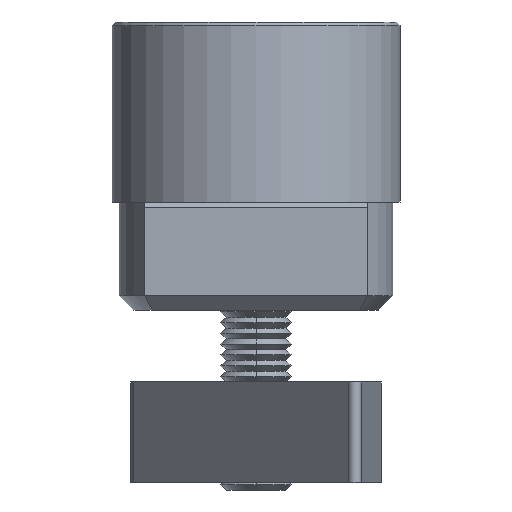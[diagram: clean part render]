
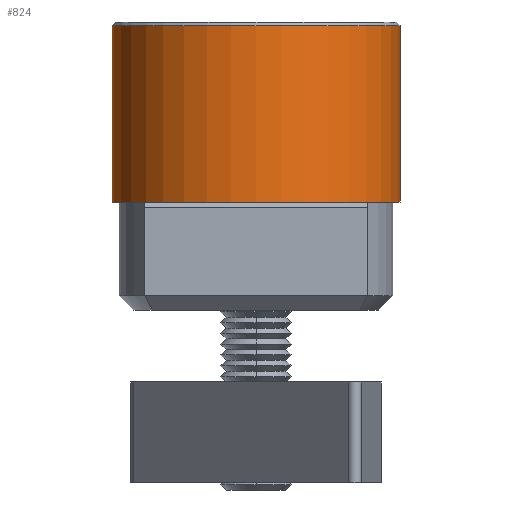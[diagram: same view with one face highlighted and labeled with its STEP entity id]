
A CAD part, front view. The second image highlights one B-rep face of the part: STEP entity #824.
In plain terms, the highlighted cylindrical face has radius 20 mm (diameter 40 mm), a partial arc.
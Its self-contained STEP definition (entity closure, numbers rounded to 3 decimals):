
#643 = EDGE_CURVE ( 'NONE', #687, #789, #2345, .T. ) ;
#687 = VERTEX_POINT ( 'NONE', #2445 ) ;
#752 = VERTEX_POINT ( 'NONE', #2603 ) ;
#759 = ORIENTED_EDGE ( 'NONE', *, *, #783, .T. ) ;
#783 = EDGE_CURVE ( 'NONE', #789, #787, #2620, .T. ) ;
#787 = VERTEX_POINT ( 'NONE', #2610 ) ;
#788 = EDGE_CURVE ( 'NONE', #752, #787, #2609, .T. ) ;
#789 = VERTEX_POINT ( 'NONE', #2605 ) ;
#824 = ADVANCED_FACE ( 'NONE', ( #2676 ), #2675, .T. ) ;
#825 = EDGE_LOOP ( 'NONE', ( #839, #840, #842, #759 ) ) ;
#839 = ORIENTED_EDGE ( 'NONE', *, *, #788, .F. ) ;
#840 = ORIENTED_EDGE ( 'NONE', *, *, #841, .T. ) ;
#841 = EDGE_CURVE ( 'NONE', #752, #687, #2708, .T. ) ;
#842 = ORIENTED_EDGE ( 'NONE', *, *, #643, .T. ) ;
#2342 = DIRECTION ( 'NONE',  ( 0., 0., -1. ) ) ;
#2343 = VECTOR ( 'NONE', #2342, 1000. ) ;
#2344 = CARTESIAN_POINT ( 'NONE',  ( -20., 0., 25. ) ) ;
#2345 = LINE ( 'NONE', #2344, #2343 ) ;
#2445 = CARTESIAN_POINT ( 'NONE',  ( -20., 0., 24.5 ) ) ;
#2603 = CARTESIAN_POINT ( 'NONE',  ( 20., 0., 24.5 ) ) ;
#2605 = CARTESIAN_POINT ( 'NONE',  ( -20., 0., 0. ) ) ;
#2606 = DIRECTION ( 'NONE',  ( 0., 0., -1. ) ) ;
#2607 = VECTOR ( 'NONE', #2606, 1000. ) ;
#2608 = CARTESIAN_POINT ( 'NONE',  ( 20., 0., 25. ) ) ;
#2609 = LINE ( 'NONE', #2608, #2607 ) ;
#2610 = CARTESIAN_POINT ( 'NONE',  ( 20., 0., 0. ) ) ;
#2616 = DIRECTION ( 'NONE',  ( 1., 0., 0. ) ) ;
#2617 = DIRECTION ( 'NONE',  ( 0., 0., 1. ) ) ;
#2618 = CARTESIAN_POINT ( 'NONE',  ( 0., 0., 0. ) ) ;
#2619 = AXIS2_PLACEMENT_3D ( 'NONE', #2618, #2617, #2616 ) ;
#2620 = CIRCLE ( 'NONE', #2619, 20. ) ;
#2670 = DIRECTION ( 'NONE',  ( -1., 0., 0. ) ) ;
#2671 = DIRECTION ( 'NONE',  ( 0., 0., -1. ) ) ;
#2672 = AXIS2_PLACEMENT_3D ( 'NONE', #2674, #2671, #2670 ) ;
#2674 = CARTESIAN_POINT ( 'NONE',  ( 0., 0., 25. ) ) ;
#2675 = CYLINDRICAL_SURFACE ( 'NONE', #2672, 20. ) ;
#2676 = FACE_OUTER_BOUND ( 'NONE', #825, .T. ) ;
#2701 = DIRECTION ( 'NONE',  ( 1., 0., 0. ) ) ;
#2702 = DIRECTION ( 'NONE',  ( 0., 0., -1. ) ) ;
#2703 = CARTESIAN_POINT ( 'NONE',  ( 0., 0., 24.5 ) ) ;
#2704 = AXIS2_PLACEMENT_3D ( 'NONE', #2703, #2702, #2701 ) ;
#2708 = CIRCLE ( 'NONE', #2704, 20. ) ;
